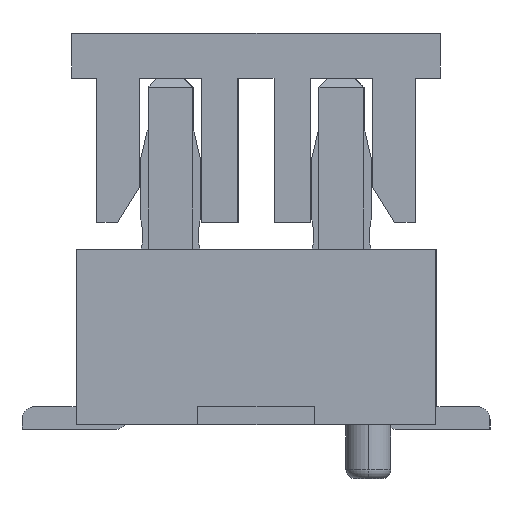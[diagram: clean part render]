
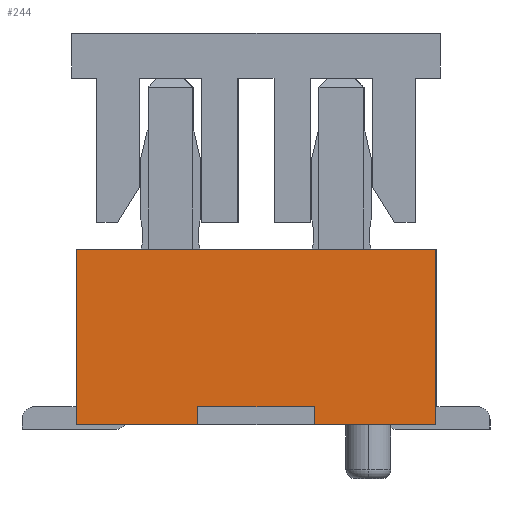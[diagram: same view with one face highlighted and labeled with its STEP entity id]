
A CAD part, left-side view. The second image highlights one B-rep face of the part: STEP entity #244.
In plain terms, the highlighted planar face has unit normal (-1, 0, 0).
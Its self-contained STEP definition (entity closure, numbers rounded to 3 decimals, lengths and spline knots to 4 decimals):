
#173=CARTESIAN_POINT('Axis2P3D Location',(-10.1,0.,0.)) ;
#178=CARTESIAN_POINT('Line Origine',(-10.1,0.65,0.1)) ;
#182=CARTESIAN_POINT('Vertex',(-10.1,0.65,0.)) ;
#184=CARTESIAN_POINT('Vertex',(-10.1,0.65,0.2)) ;
#187=CARTESIAN_POINT('Line Origine',(-10.1,0.,0.2)) ;
#191=CARTESIAN_POINT('Vertex',(-10.1,-0.65,0.2)) ;
#194=CARTESIAN_POINT('Line Origine',(-10.1,-0.65,0.1)) ;
#198=CARTESIAN_POINT('Vertex',(-10.1,-0.65,0.)) ;
#201=CARTESIAN_POINT('Line Origine',(-10.1,-1.325,0.)) ;
#205=CARTESIAN_POINT('Vertex',(-10.1,-2.,0.)) ;
#208=CARTESIAN_POINT('Line Origine',(-10.1,-2.,0.975)) ;
#212=CARTESIAN_POINT('Vertex',(-10.1,-2.,1.95)) ;
#215=CARTESIAN_POINT('Line Origine',(-10.1,0.,1.95)) ;
#219=CARTESIAN_POINT('Vertex',(-10.1,2.,1.95)) ;
#222=CARTESIAN_POINT('Line Origine',(-10.1,2.,0.975)) ;
#226=CARTESIAN_POINT('Vertex',(-10.1,2.,0.)) ;
#229=CARTESIAN_POINT('Line Origine',(-10.1,1.325,0.)) ;
#174=DIRECTION('Axis2P3D Direction',(1.,0.,0.)) ;
#175=DIRECTION('Axis2P3D XDirection',(0.,1.,0.)) ;
#179=DIRECTION('Vector Direction',(0.,0.,1.)) ;
#188=DIRECTION('Vector Direction',(0.,1.,0.)) ;
#195=DIRECTION('Vector Direction',(0.,0.,1.)) ;
#202=DIRECTION('Vector Direction',(0.,1.,0.)) ;
#209=DIRECTION('Vector Direction',(0.,0.,-1.)) ;
#216=DIRECTION('Vector Direction',(0.,1.,0.)) ;
#223=DIRECTION('Vector Direction',(0.,0.,-1.)) ;
#230=DIRECTION('Vector Direction',(0.,1.,0.)) ;
#176=AXIS2_PLACEMENT_3D('Plane Axis2P3D',#173,#174,#175) ;
#235=ORIENTED_EDGE('',*,*,#186,.T.) ;
#236=ORIENTED_EDGE('',*,*,#193,.F.) ;
#237=ORIENTED_EDGE('',*,*,#200,.F.) ;
#238=ORIENTED_EDGE('',*,*,#207,.F.) ;
#239=ORIENTED_EDGE('',*,*,#214,.F.) ;
#240=ORIENTED_EDGE('',*,*,#221,.F.) ;
#241=ORIENTED_EDGE('',*,*,#228,.F.) ;
#242=ORIENTED_EDGE('',*,*,#233,.F.) ;
#180=VECTOR('Line Direction',#179,1.) ;
#189=VECTOR('Line Direction',#188,1.) ;
#196=VECTOR('Line Direction',#195,1.) ;
#203=VECTOR('Line Direction',#202,1.) ;
#210=VECTOR('Line Direction',#209,1.) ;
#217=VECTOR('Line Direction',#216,1.) ;
#224=VECTOR('Line Direction',#223,1.) ;
#231=VECTOR('Line Direction',#230,1.) ;
#244=ADVANCED_FACE('\X2\96F64EF651E04F554F53\X0\',(#243),#177,.F.) ;
#186=EDGE_CURVE('',#183,#185,#181,.T.) ;
#193=EDGE_CURVE('',#192,#185,#190,.T.) ;
#200=EDGE_CURVE('',#199,#192,#197,.T.) ;
#207=EDGE_CURVE('',#206,#199,#204,.T.) ;
#214=EDGE_CURVE('',#213,#206,#211,.T.) ;
#221=EDGE_CURVE('',#220,#213,#218,.F.) ;
#228=EDGE_CURVE('',#227,#220,#225,.F.) ;
#233=EDGE_CURVE('',#183,#227,#232,.T.) ;
#234=EDGE_LOOP('',(#235,#236,#237,#238,#239,#240,#241,#242)) ;
#243=FACE_OUTER_BOUND('',#234,.T.) ;
#181=LINE('Line',#178,#180) ;
#190=LINE('Line',#187,#189) ;
#197=LINE('Line',#194,#196) ;
#204=LINE('Line',#201,#203) ;
#211=LINE('Line',#208,#210) ;
#218=LINE('Line',#215,#217) ;
#225=LINE('Line',#222,#224) ;
#232=LINE('Line',#229,#231) ;
#177=PLANE('Plane',#176) ;
#183=VERTEX_POINT('',#182) ;
#185=VERTEX_POINT('',#184) ;
#192=VERTEX_POINT('',#191) ;
#199=VERTEX_POINT('',#198) ;
#206=VERTEX_POINT('',#205) ;
#213=VERTEX_POINT('',#212) ;
#220=VERTEX_POINT('',#219) ;
#227=VERTEX_POINT('',#226) ;
